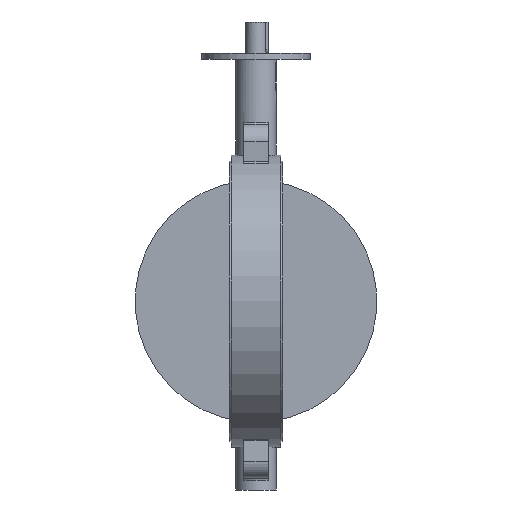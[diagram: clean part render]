
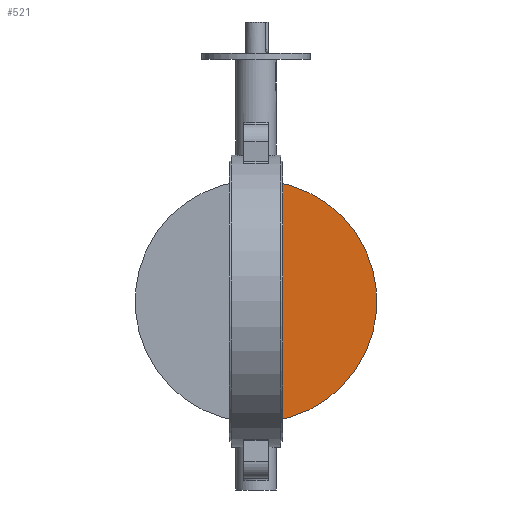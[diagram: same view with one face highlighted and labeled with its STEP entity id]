
A CAD part, front view. The second image highlights one B-rep face of the part: STEP entity #521.
In plain terms, the highlighted planar face has unit normal (0, -1, 0).
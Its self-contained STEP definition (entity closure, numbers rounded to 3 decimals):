
#521=ADVANCED_FACE('',(#1288),#1290,.T.);
#1288=FACE_BOUND('',#1289,.T.);
#1289=EDGE_LOOP('',(#1834,#1835));
#1290=PLANE('',#1291);
#1291=AXIS2_PLACEMENT_3D('',#1292,#1293,#1294);
#1292=CARTESIAN_POINT('',(0.,-7.5,0.));
#1293=DIRECTION('',(0.,-1.,0.));
#1294=DIRECTION('',(0.,0.,1.));
#1834=ORIENTED_EDGE('',*,*,#2084,.T.);
#1835=ORIENTED_EDGE('',*,*,#2119,.T.);
#2084=EDGE_CURVE('',#2372,#2369,#2373,.T.);
#2119=EDGE_CURVE('',#2369,#2372,#2422,.T.);
#2369=VERTEX_POINT('',#3863);
#2372=VERTEX_POINT('',#3907);
#2373=LINE('',#3908,#3909);
#2422=CIRCLE('',#4154,194.805);
#3863=CARTESIAN_POINT('',(21.213,-7.5,-193.647));
#3907=CARTESIAN_POINT('',(21.213,-7.5,193.647));
#3908=CARTESIAN_POINT('',(21.213,-7.5,193.647));
#3909=VECTOR('',#3910,1.);
#3910=DIRECTION('',(0.,0.,-1.));
#4154=AXIS2_PLACEMENT_3D('',#4155,#4156,#4157);
#4155=CARTESIAN_POINT('',(0.,-7.5,0.));
#4156=DIRECTION('',(0.,-1.,0.));
#4157=DIRECTION('',(0.109,0.,-0.994));
